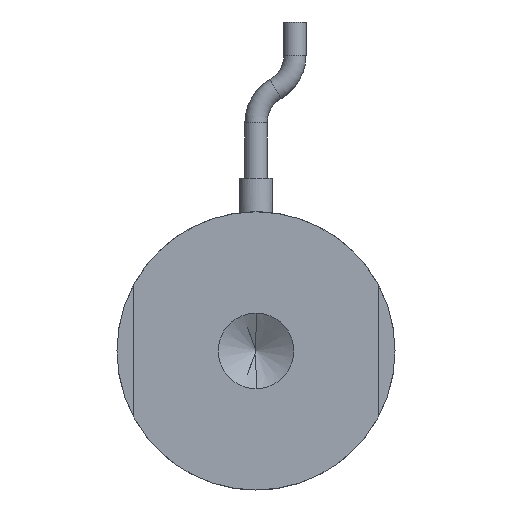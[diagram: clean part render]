
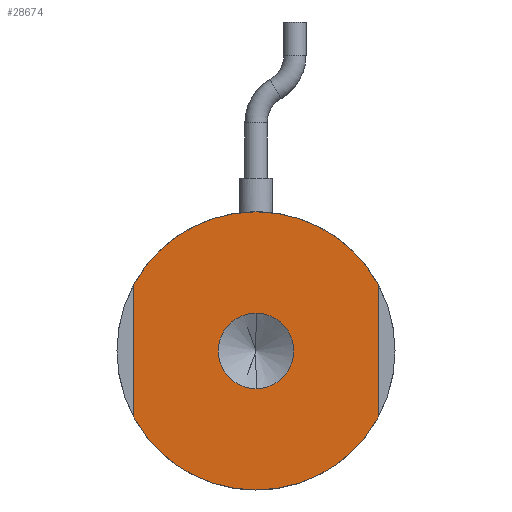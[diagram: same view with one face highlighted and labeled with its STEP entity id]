
A CAD part, front view. The second image highlights one B-rep face of the part: STEP entity #28674.
In plain terms, the highlighted planar face has unit normal (0, -1, 0).
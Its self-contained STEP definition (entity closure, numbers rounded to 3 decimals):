
#1039 = VERTEX_POINT ( 'NONE', #21488 ) ;
#1066 = VERTEX_POINT ( 'NONE', #22259 ) ;
#1236 = VECTOR ( 'NONE', #29975, 1000. ) ;
#1804 = EDGE_CURVE ( 'NONE', #1066, #1039, #22656, .T. ) ;
#2604 = CIRCLE ( 'NONE', #34681, 12.5 ) ;
#2744 = DIRECTION ( 'NONE',  ( 0., 0., 1. ) ) ;
#2749 = DIRECTION ( 'NONE',  ( 0., 1., 0. ) ) ;
#2830 = CARTESIAN_POINT ( 'NONE',  ( 0., 0., 0. ) ) ;
#3288 = EDGE_CURVE ( 'NONE', #5080, #17957, #8666, .T. ) ;
#5080 = VERTEX_POINT ( 'NONE', #33875 ) ;
#5557 = CARTESIAN_POINT ( 'NONE',  ( -11., 0., 0. ) ) ;
#5798 = CARTESIAN_POINT ( 'NONE',  ( 11., 0., 5.937 ) ) ;
#5866 = EDGE_CURVE ( 'NONE', #35228, #5080, #40368, .T. ) ;
#6634 = AXIS2_PLACEMENT_3D ( 'NONE', #33452, #33408, #33363 ) ;
#7403 = CARTESIAN_POINT ( 'NONE',  ( 0., 0., 0. ) ) ;
#8050 = AXIS2_PLACEMENT_3D ( 'NONE', #7403, #31718, #10979 ) ;
#8666 = CIRCLE ( 'NONE', #6634, 12.5 ) ;
#10220 = CIRCLE ( 'NONE', #33287, 3.4 ) ;
#10979 = DIRECTION ( 'NONE',  ( 0., 0., 1. ) ) ;
#11362 = PLANE ( 'NONE',  #19445 ) ;
#12276 = EDGE_LOOP ( 'NONE', ( #16140, #34233, #26437, #44359, #18389, #37410 ) ) ;
#14992 = DIRECTION ( 'NONE',  ( 0., 0., 1. ) ) ;
#15646 = CIRCLE ( 'NONE', #8050, 12.5 ) ;
#16140 = ORIENTED_EDGE ( 'NONE', *, *, #18606, .F. ) ;
#17335 = CARTESIAN_POINT ( 'NONE',  ( 0., 0., 0. ) ) ;
#17348 = LINE ( 'NONE', #36091, #35355 ) ;
#17545 = DIRECTION ( 'NONE',  ( 0., 0., -1. ) ) ;
#17675 = DIRECTION ( 'NONE',  ( 0., -1., 0. ) ) ;
#17716 = CARTESIAN_POINT ( 'NONE',  ( 0., 0., 0. ) ) ;
#17957 = VERTEX_POINT ( 'NONE', #5798 ) ;
#18095 = CARTESIAN_POINT ( 'NONE',  ( -11., 0., -5.937 ) ) ;
#18389 = ORIENTED_EDGE ( 'NONE', *, *, #3288, .F. ) ;
#18606 = EDGE_CURVE ( 'NONE', #41378, #35228, #37936, .T. ) ;
#18655 = VERTEX_POINT ( 'NONE', #33292 ) ;
#18800 = FACE_BOUND ( 'NONE', #26891, .T. ) ;
#19445 = AXIS2_PLACEMENT_3D ( 'NONE', #42125, #35417, #14992 ) ;
#19920 = AXIS2_PLACEMENT_3D ( 'NONE', #2830, #2749, #2744 ) ;
#20546 = CARTESIAN_POINT ( 'NONE',  ( 0., 0., 0. ) ) ;
#20699 = VERTEX_POINT ( 'NONE', #38586 ) ;
#20896 = DIRECTION ( 'NONE',  ( 0., 0., 1. ) ) ;
#21108 = ORIENTED_EDGE ( 'NONE', *, *, #1804, .F. ) ;
#21251 = AXIS2_PLACEMENT_3D ( 'NONE', #17716, #17675, #17545 ) ;
#21488 = CARTESIAN_POINT ( 'NONE',  ( 0., 0., 3.4 ) ) ;
#22259 = CARTESIAN_POINT ( 'NONE',  ( 0., 0., -3.4 ) ) ;
#22656 = CIRCLE ( 'NONE', #21251, 3.4 ) ;
#23834 = CARTESIAN_POINT ( 'NONE',  ( -11., 0., 5.937 ) ) ;
#23973 = DIRECTION ( 'NONE',  ( 0., 0., -1. ) ) ;
#26437 = ORIENTED_EDGE ( 'NONE', *, *, #41371, .F. ) ;
#26891 = EDGE_LOOP ( 'NONE', ( #21108, #32150 ) ) ;
#28674 = ADVANCED_FACE ( 'NONE', ( #18800, #35648 ), #11362, .F. ) ;
#29975 = DIRECTION ( 'NONE',  ( 0., 0., 1. ) ) ;
#31562 = EDGE_CURVE ( 'NONE', #1039, #1066, #10220, .T. ) ;
#31718 = DIRECTION ( 'NONE',  ( 0., 1., 0. ) ) ;
#32046 = EDGE_CURVE ( 'NONE', #20699, #41378, #2604, .T. ) ;
#32150 = ORIENTED_EDGE ( 'NONE', *, *, #31562, .F. ) ;
#33287 = AXIS2_PLACEMENT_3D ( 'NONE', #20546, #44156, #23973 ) ;
#33292 = CARTESIAN_POINT ( 'NONE',  ( 11., 0., -5.937 ) ) ;
#33363 = DIRECTION ( 'NONE',  ( 0., 0., 1. ) ) ;
#33408 = DIRECTION ( 'NONE',  ( 0., 1., 0. ) ) ;
#33452 = CARTESIAN_POINT ( 'NONE',  ( 0., 0., 0. ) ) ;
#33875 = CARTESIAN_POINT ( 'NONE',  ( 0., 0., 12.5 ) ) ;
#34233 = ORIENTED_EDGE ( 'NONE', *, *, #32046, .F. ) ;
#34681 = AXIS2_PLACEMENT_3D ( 'NONE', #17335, #41027, #20896 ) ;
#35228 = VERTEX_POINT ( 'NONE', #23834 ) ;
#35355 = VECTOR ( 'NONE', #39503, 1000. ) ;
#35417 = DIRECTION ( 'NONE',  ( 0., 1., 0. ) ) ;
#35648 = FACE_OUTER_BOUND ( 'NONE', #12276, .T. ) ;
#36091 = CARTESIAN_POINT ( 'NONE',  ( 11., 0., 0. ) ) ;
#37410 = ORIENTED_EDGE ( 'NONE', *, *, #5866, .F. ) ;
#37936 = LINE ( 'NONE', #5557, #1236 ) ;
#38586 = CARTESIAN_POINT ( 'NONE',  ( 0., 0., -12.5 ) ) ;
#39503 = DIRECTION ( 'NONE',  ( 0., 0., -1. ) ) ;
#40368 = CIRCLE ( 'NONE', #19920, 12.5 ) ;
#40478 = EDGE_CURVE ( 'NONE', #17957, #18655, #17348, .T. ) ;
#41027 = DIRECTION ( 'NONE',  ( 0., 1., 0. ) ) ;
#41371 = EDGE_CURVE ( 'NONE', #18655, #20699, #15646, .T. ) ;
#41378 = VERTEX_POINT ( 'NONE', #18095 ) ;
#42125 = CARTESIAN_POINT ( 'NONE',  ( 0., 0., 0. ) ) ;
#44156 = DIRECTION ( 'NONE',  ( 0., -1., 0. ) ) ;
#44359 = ORIENTED_EDGE ( 'NONE', *, *, #40478, .F. ) ;
